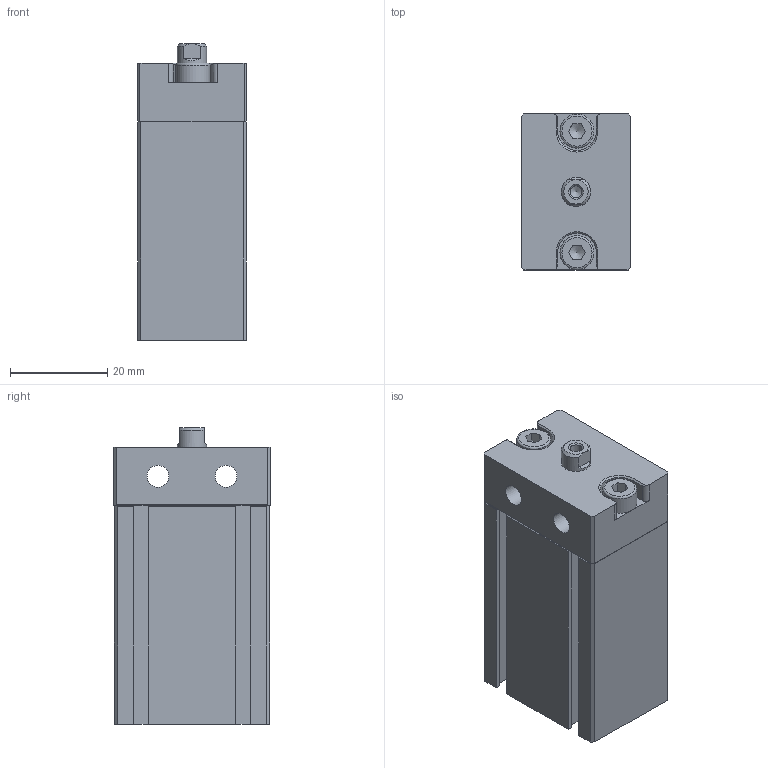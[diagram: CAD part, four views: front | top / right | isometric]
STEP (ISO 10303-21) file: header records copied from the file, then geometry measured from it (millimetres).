
FILE_DESCRIPTION((''),'2;1');
FILE_NAME('I:\3D電子目錄\氣缸\ND\ND\ND16\ND16x20.stp','2007-07-23T19:01:59',('Administrator'),(''),'Autodesk Inventor 11','Autodesk Inventor 11','');
FILE_SCHEMA(('AUTOMOTIVE_DESIGN { 1 0 10303 214 1 1 1 1 }'));
Length unit declared in the file: millimetre
Products named in the file (4): ND16; R 形環 18; ISO 4762 M4 x 10
Assembly tree (4 placements, depth 2):
  ND16
    ND16
    R 形環 18
    ISO 4762 M4 x 10  x2
Bounding box: 22.4 x 32.1 x 61 mm (x, y, z)
Volume: 34856.9 mm3; surface area: 12594.2 mm2
Topology: 5 solids, 5 shells, 170 faces, 408 edges, 261 vertices
Faces by surface type: plane 109, cylinder 26, cone 16, bspline 16, torus 3
Full cylindrical faces by diameter (mm): 1.5 x4, 4 x2, 4.5 x2, 6 x1, 7 x2, 10 x1, 18 x1, 19 x1
Entity records: 4537 total; most frequent: CARTESIAN_POINT 968, DIRECTION 708, ORIENTED_EDGE 668, EDGE_CURVE 334, AXIS2_PLACEMENT_3D 236, VECTOR 236, LINE 236, VERTEX_POINT 234
